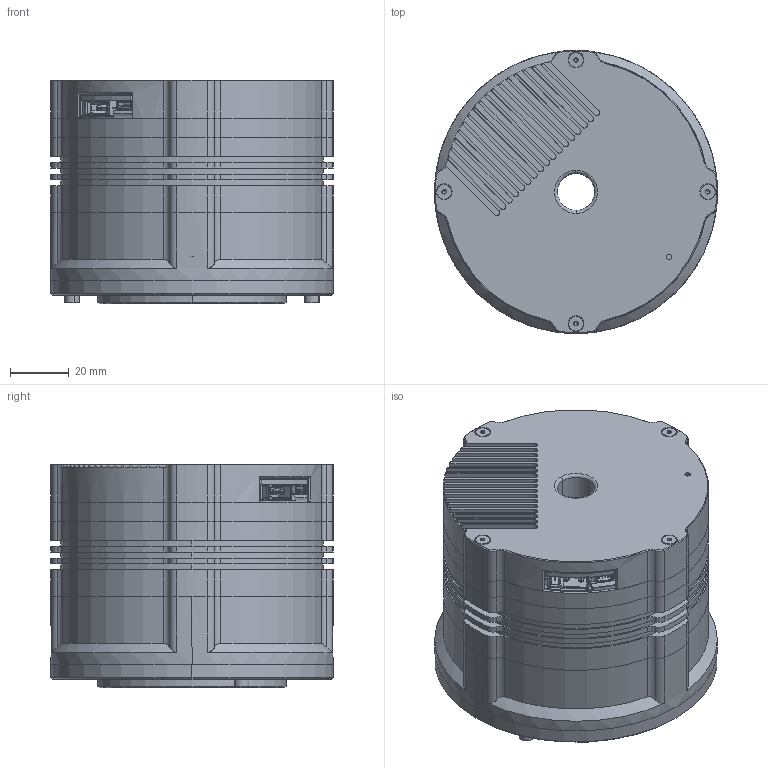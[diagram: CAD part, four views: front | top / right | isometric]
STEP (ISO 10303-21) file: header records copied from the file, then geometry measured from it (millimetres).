
FILE_DESCRIPTION (( 'STEP AP203' ), '1' );
FILE_NAME ('RMD-X8-P20-120 外形图-A0.STEP', '2026-09-18T06:29:23', ( '微软用户' ), ( '微软中国' ), 'SwSTEP 2.0', 'SolidWorks 2020', '' );
FILE_SCHEMA (( 'CONFIG_CONTROL_DESIGN' ));
Length unit declared in the file: millimetre
Products named in the file (13): XMT.105.013.STEP; XMT.106.004.STEP; 8MT.013.085_Default________.STEP; XMT.105.021.STEP; 8MT.013.084-V1_Default________.STEP; ____110_Default________.STEP; M2X4.STEP; X8-120驱动; RMD-X8-P20-120 俋倛芞-A0; M3X10.STEP; 8MT.034.010_Default________.STEP; M2.5X14.STEP; XMT.108.005_Default________.STEP
Assembly tree (20 placements, depth 2):
  RMD-X8-P20-120 俋倛芞-A0
    XMT.108.005_Default________.STEP
    XMT.106.004.STEP
    XMT.105.013.STEP
    XMT.105.021.STEP
    ____110_Default________.STEP  x2
    8MT.034.010_Default________.STEP
    8MT.013.084-V1_Default________.STEP
    8MT.013.085_Default________.STEP
    M2X4.STEP  x2
    M3X10.STEP  x4
    M2.5X14.STEP  x4
    X8-120驱动
Bounding box: 96 x 96 x 76 mm (x, y, z)
Volume: 108997.3 mm3; surface area: 117083.6 mm2
Topology: 19 solids, 61 shells, 4086 faces, 10943 edges, 7075 vertices
Faces by surface type: cylinder 1761, plane 1527, bspline 440, cone 324, torus 18, sphere 16
Entity records: 141123 total; most frequent: CARTESIAN_POINT 47316, ORIENTED_EDGE 20850, DIRECTION 15495, EDGE_CURVE 10440, VERTEX_POINT 6858, AXIS2_PLACEMENT_3D 5435, EDGE_LOOP 5111, LINE 4625
